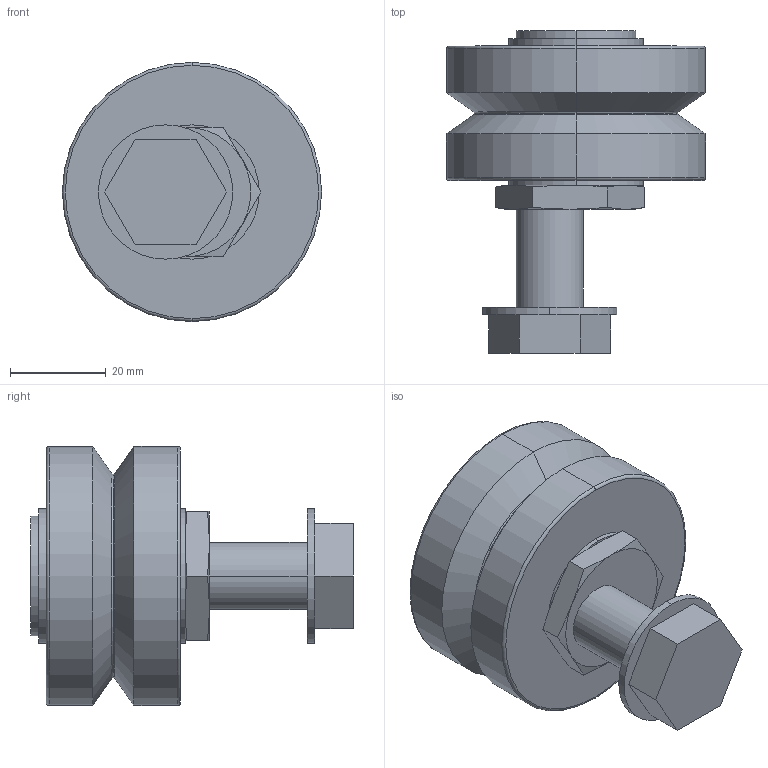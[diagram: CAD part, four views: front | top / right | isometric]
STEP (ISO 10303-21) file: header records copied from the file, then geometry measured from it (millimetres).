
FILE_DESCRIPTION(('STEP AP203'),'1');
FILE_NAME('rlfj_54_de_ns.stp','2021-08-30T07:32:17',('TraceParts'),('TraceParts S.A.'),'Spatial InterOp 3D',' ',' ');
FILE_SCHEMA(('CONFIG_CONTROL_DESIGN'));
Length unit declared in the file: millimetre
Products named in the file (1): 1
Bounding box: 54 x 67.2 x 54 mm (x, y, z)
Volume: 72753.1 mm3; surface area: 23480.6 mm2
Topology: 3 solids, 3 shells, 70 faces, 152 edges, 92 vertices
Faces by surface type: plane 30, cylinder 16, cone 16, torus 8
Entity records: 2030 total; most frequent: CARTESIAN_POINT 437, DIRECTION 340, ORIENTED_EDGE 304, EDGE_CURVE 152, AXIS2_PLACEMENT_3D 139, VERTEX_POINT 92, EDGE_LOOP 78, ADVANCED_FACE 70
